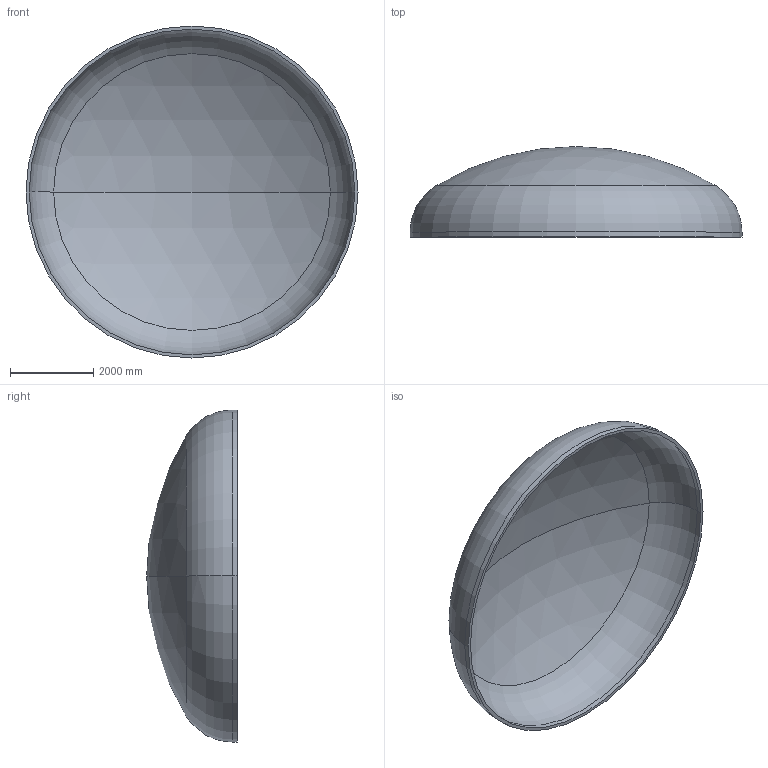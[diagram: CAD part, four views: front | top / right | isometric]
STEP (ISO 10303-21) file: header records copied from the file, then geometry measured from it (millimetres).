
FILE_DESCRIPTION (( 'STEP AP203' ), '1' );
FILE_NAME ('DIN 28013 Korbbogenform_-_Boden DIN 28013 - 8000 x 120 - I - s=76.step', '2016-07-04T11:03:47', ( '' ), ( '' ), 'SwSTEP 2.0', 'SolidWorks 2013', '' );
FILE_SCHEMA (( 'CONFIG_CONTROL_DESIGN' ));
Length unit declared in the file: millimetre
Products named in the file (1): DIN 28013 Korbbogenform_-_Boden DIN 28013 - 8000 x 120 - I - s=76
Bounding box: 8000 x 2183.37 x 8000 mm (x, y, z)
Volume: 5450209288.3 mm3; surface area: 145330544.2 mm2
Topology: 1 solids, 1 shells, 13 faces, 24 edges, 14 vertices
Faces by surface type: torus 4, cylinder 4, sphere 4, plane 1
Entity records: 407 total; most frequent: DIRECTION 72, CARTESIAN_POINT 52, ORIENTED_EDGE 48, AXIS2_PLACEMENT_3D 34, EDGE_CURVE 24, CIRCLE 20, EDGE_LOOP 14, VERTEX_POINT 14
